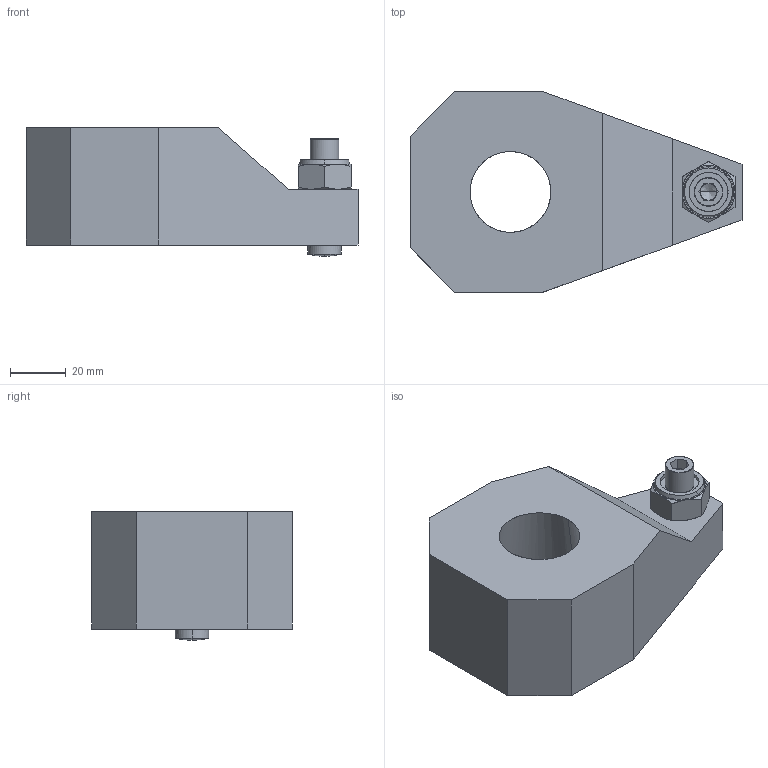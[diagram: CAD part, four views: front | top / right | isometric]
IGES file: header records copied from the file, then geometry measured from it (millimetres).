
Start section: Comment
Global section: file name: jsp63_clamparm.igs; native system:  By Spatial Corp.; preprocessor: XPlus GENERIC/IGES 3.0; author: Author; organization: Title; date: 20080526.131531; units: millimetre
Bounding box: 119 x 72 x 46 mm (x, y, z)
Surface area: 30901.7 mm2 (no closed solid volume)
Topology: 0 solids, 0 shells, 75 faces, 342 edges, 336 vertices
Faces by surface type: bspline 75
